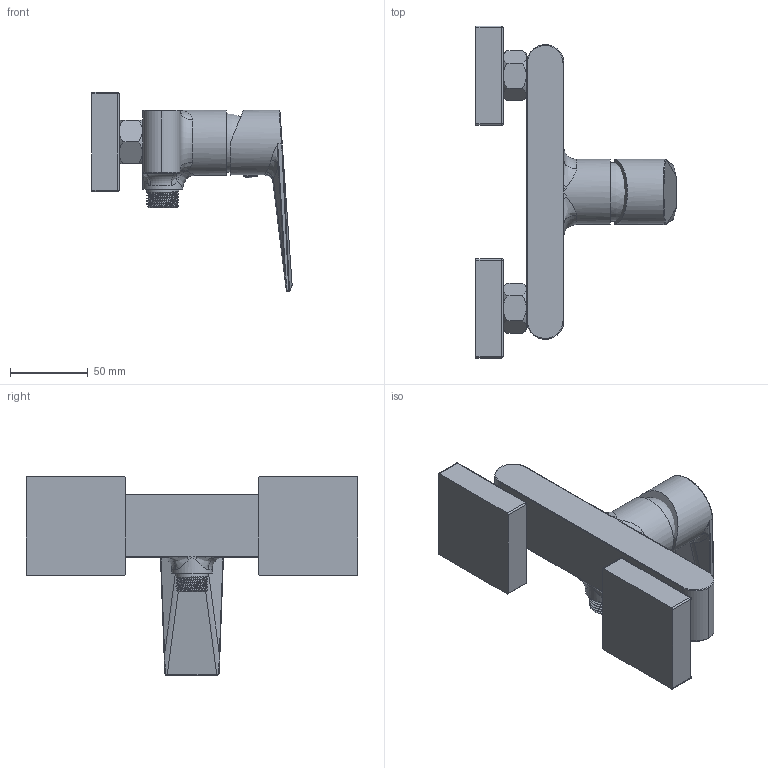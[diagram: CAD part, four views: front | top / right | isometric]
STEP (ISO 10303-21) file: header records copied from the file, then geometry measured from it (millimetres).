
FILE_DESCRIPTION(/* description */ (''),/* implementation_level */ '2;1');
FILE_NAME(/* name */ '淋浴.stp',/* time_stamp */ '2024-03-02T22:14:56+08:00',/* author */ (''),/* organization */ (''),/* preprocessor_version */ 'ST-DEVELOPER v16',/* originating_system */ 'SIEMENS PLM Software NX 10.0',/* authorisation */ '');
FILE_SCHEMA (('CONFIG_CONTROL_DESIGN'));
Length unit declared in the file: millimetre
Products named in the file (1): 淋浴
Bounding box: 129.07 x 213.96 x 128.5 mm (x, y, z)
Volume: 458542.6 mm3; surface area: 82790.7 mm2
Topology: 9 solids, 9 shells, 330 faces, 771 edges, 458 vertices
Faces by surface type: plane 125, cylinder 87, bspline 51, cone 38, torus 15, sphere 14
Full cylindrical faces by diameter (mm): 8.9 x1, 9 x2, 10.3 x2, 14.5 x2, 15.6 x2, 16 x2, 20.5 x2, 20.6 x5, 21 x2, 23 x2, 24.5 x2, 26 x1, 42 x2
Entity records: 12473 total; most frequent: CARTESIAN_POINT 5631, ORIENTED_EDGE 1380, DIRECTION 1380, EDGE_CURVE 690, AXIS2_PLACEMENT_3D 573, VERTEX_POINT 433, EDGE_LOOP 379, ADVANCED_FACE 325
